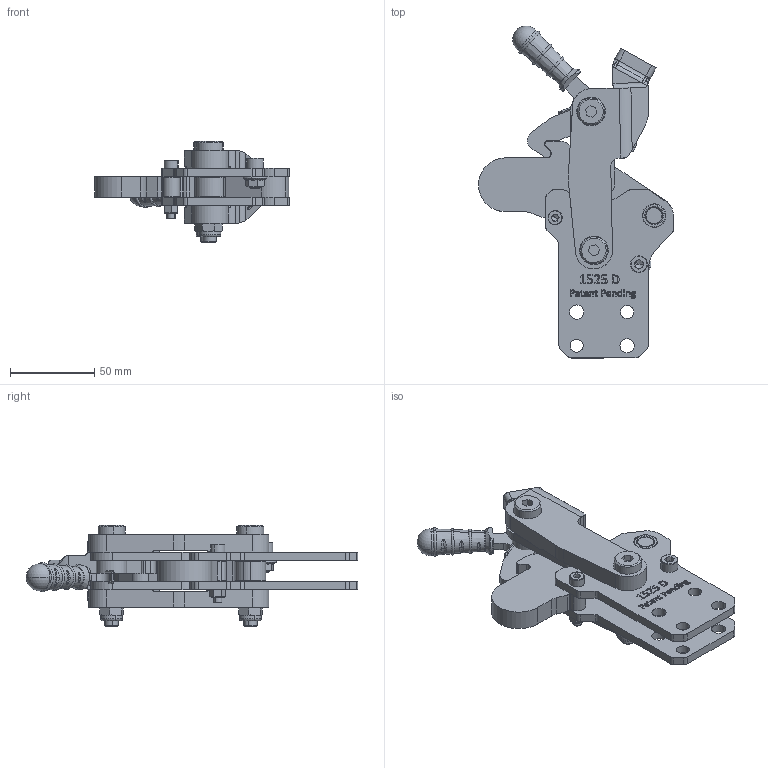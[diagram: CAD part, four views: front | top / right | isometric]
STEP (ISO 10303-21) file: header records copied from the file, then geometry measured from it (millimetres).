
FILE_DESCRIPTION (( 'STEP AP214' ), '1' );
FILE_NAME ('1525_D.STEP', '2020-07-22T12:28:47', ( '' ), ( '' ), 'SwSTEP 2.0', 'SolidWorks 2019', '' );
FILE_SCHEMA (( 'AUTOMOTIVE_DESIGN' ));
Length unit declared in the file: millimetre
Products named in the file (20): 1535_Mafsal_5mm; 1535_dovme mafsal; socket head cap screw_iso_ISO 4762 M5 x 30 --- 22N; G39x8x10x40; 1545_UD_Gövde; 1535_cap10x18_ara mesafe burcu; C45 Tutamak_5x8_5; hex nut style 1 gradeab_iso_Hexagon Nut ISO - 4032 - M5 - W - N; socket head cap screw_iso_ISO 4762 M6 x 12 --- 12N; torque nut 01_iso_ISO 7040-M8-N; hex flange nut gradea_iso_Hexagon Flange Nut ISO - 4161 - M6 - N; 1505_MafsalGrubu_Kilitli; 1505UD KilitGövde; 1505_U_KilitKancal齙Bask齂olu; 1505_Aðýr seri_Kilit Yayý; 1535_Burc_14x10x5; 1525_D; 1535_Cap10x22 Týrtýllý Pim; 1535_cap5x12_on paralel burc
Assembly tree (32 placements, depth 3):
  1525_D
    1535_cap10x18_ara mesafe burcu
    1545_UD_Gövde
    1535_Burc_14x10x5  x4
    1545_UD_Gövde
    1535_Cap10x22 Týrtýllý Pim  x2
    1505_U_KilitKancal齙Bask齂olu
    socket head cap screw_iso_ISO 4762 M5 x 30 --- 22N
    hex nut style 1 gradeab_iso_Hexagon Nut ISO - 4032 - M5 - W - N
    1505_MafsalGrubu_Kilitli
      1535_dovme mafsal
      1535_Mafsal_5mm  x2
      1535_Burc_14x10x5  x4
      G39x8x10x40  x2
      1535_cap10x18_ara mesafe burcu  x2
    socket head cap screw_iso_ISO 4762 M6 x 12 --- 12N
    hex flange nut gradea_iso_Hexagon Flange Nut ISO - 4161 - M6 - N
    1535_cap5x12_on paralel burc
    torque nut 01_iso_ISO 7040-M8-N  x2
    1505UD KilitGövde
    C45 Tutamak_5x8_5
    1505_Aðýr seri_Kilit Yayý
Bounding box: 115.76 x 197.18 x 60 mm (x, y, z)
Volume: 219997.5 mm3; surface area: 92881.5 mm2
Topology: 31 solids, 31 shells, 1987 faces, 5001 edges, 3123 vertices
Faces by surface type: plane 1092, cylinder 387, bspline 272, cone 186, torus 48, sphere 2
Entity records: 53845 total; most frequent: CARTESIAN_POINT 21204, ORIENTED_EDGE 6106, DIRECTION 4929, EDGE_CURVE 3053, VERTEX_POINT 1964, LINE 1647, VECTOR 1647, AXIS2_PLACEMENT_3D 1641
